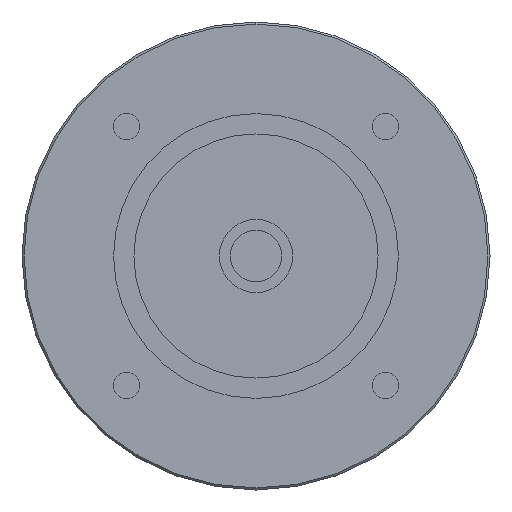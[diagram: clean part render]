
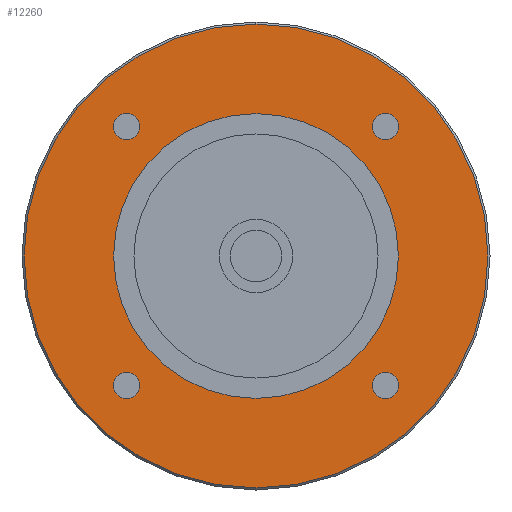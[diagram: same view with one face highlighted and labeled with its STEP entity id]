
A CAD part, left-side view. The second image highlights one B-rep face of the part: STEP entity #12260.
In plain terms, the highlighted planar face has unit normal (-1, 0, 0) as drawn and (0, 0, -1) by its records, which use the part's own axes.
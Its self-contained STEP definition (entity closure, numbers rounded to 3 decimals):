
#11090=CARTESIAN_POINT('',(0.,57.,-47.));
#11100=VERTEX_POINT('',#11090);
#11130=CARTESIAN_POINT('',(0.,0.,-47.
));
#11140=DIRECTION('',(0.,0.,-1.));
#11150=DIRECTION('',(1.,0.,0.));
#11160=AXIS2_PLACEMENT_3D('',#11130,#11140,#11150);
#11170=CIRCLE('',#11160,57.);
#11180=CARTESIAN_POINT('',(57.,0.,-47.));
#11190=VERTEX_POINT('',#11180);
#11200=EDGE_CURVE('',#11100,#11190,#11170,.T.);
#11220=CARTESIAN_POINT('',(0.,-57.,-47.));
#11230=VERTEX_POINT('',#11220);
#11240=EDGE_CURVE('',#11190,#11230,#11170,.T.);
#11400=CARTESIAN_POINT('',(0.,0.,-47.
));
#11410=DIRECTION('',(0.,0.,-1.));
#11420=DIRECTION('',(1.,0.,0.));
#11430=AXIS2_PLACEMENT_3D('',#11400,#11410,#11420);
#11440=PLANE('',#11430);
#11450=CARTESIAN_POINT('',(-31.82,-31.82,-47.));
#11460=DIRECTION('',(0.,0.,-1.));
#11470=DIRECTION('',(1.,0.,0.));
#11480=AXIS2_PLACEMENT_3D('',#11450,#11460,#11470);
#11490=CIRCLE('',#11480,3.25);
#11500=CARTESIAN_POINT('',(-28.57,-31.82,-47.));
#11510=VERTEX_POINT('',#11500);
#11520=CARTESIAN_POINT('',(-35.07,-31.82,-47.));
#11530=VERTEX_POINT('',#11520);
#11540=EDGE_CURVE('',#11510,#11530,#11490,.T.);
#11550=ORIENTED_EDGE('',*,*,#11540,.F.);
#11560=EDGE_CURVE('',#11530,#11510,#11490,.T.);
#11570=ORIENTED_EDGE('',*,*,#11560,.F.);
#11580=EDGE_LOOP('',(#11570,#11550));
#11590=FACE_BOUND('',#11580,.T.);
#11600=CARTESIAN_POINT('',(-31.82,31.82,-47.));
#11610=DIRECTION('',(0.,0.,-1.));
#11620=DIRECTION('',(1.,0.,0.));
#11630=AXIS2_PLACEMENT_3D('',#11600,#11610,#11620);
#11640=CIRCLE('',#11630,3.25);
#11650=CARTESIAN_POINT('',(-28.57,31.82,-47.));
#11660=VERTEX_POINT('',#11650);
#11670=CARTESIAN_POINT('',(-35.07,31.82,-47.));
#11680=VERTEX_POINT('',#11670);
#11690=EDGE_CURVE('',#11660,#11680,#11640,.T.);
#11700=ORIENTED_EDGE('',*,*,#11690,.F.);
#11710=EDGE_CURVE('',#11680,#11660,#11640,.T.);
#11720=ORIENTED_EDGE('',*,*,#11710,.F.);
#11730=EDGE_LOOP('',(#11720,#11700));
#11740=FACE_BOUND('',#11730,.T.);
#11750=CARTESIAN_POINT('',(31.82,31.82,-47.));
#11760=DIRECTION('',(0.,0.,-1.));
#11770=DIRECTION('',(1.,0.,0.));
#11780=AXIS2_PLACEMENT_3D('',#11750,#11760,#11770);
#11790=CIRCLE('',#11780,3.25);
#11800=CARTESIAN_POINT('',(35.07,31.82,-47.));
#11810=VERTEX_POINT('',#11800);
#11820=CARTESIAN_POINT('',(28.57,31.82,-47.));
#11830=VERTEX_POINT('',#11820);
#11840=EDGE_CURVE('',#11810,#11830,#11790,.T.);
#11850=ORIENTED_EDGE('',*,*,#11840,.F.);
#11860=EDGE_CURVE('',#11830,#11810,#11790,.T.);
#11870=ORIENTED_EDGE('',*,*,#11860,.F.);
#11880=EDGE_LOOP('',(#11870,#11850));
#11890=FACE_BOUND('',#11880,.T.);
#11900=CARTESIAN_POINT('',(31.82,-31.82,-47.));
#11910=DIRECTION('',(0.,0.,-1.));
#11920=DIRECTION('',(1.,0.,0.));
#11930=AXIS2_PLACEMENT_3D('',#11900,#11910,#11920);
#11940=CIRCLE('',#11930,3.25);
#11950=CARTESIAN_POINT('',(35.07,-31.82,-47.));
#11960=VERTEX_POINT('',#11950);
#11970=CARTESIAN_POINT('',(28.57,-31.82,-47.));
#11980=VERTEX_POINT('',#11970);
#11990=EDGE_CURVE('',#11960,#11980,#11940,.T.);
#12000=ORIENTED_EDGE('',*,*,#11990,.F.);
#12010=EDGE_CURVE('',#11980,#11960,#11940,.T.);
#12020=ORIENTED_EDGE('',*,*,#12010,.F.);
#12030=EDGE_LOOP('',(#12020,#12000));
#12040=FACE_BOUND('',#12030,.T.);
#12050=EDGE_CURVE('',#11230,#11100,#11170,.T.);
#12060=ORIENTED_EDGE('',*,*,#12050,.T.);
#12070=ORIENTED_EDGE('',*,*,#11240,.T.);
#12080=ORIENTED_EDGE('',*,*,#11200,.T.);
#12090=EDGE_LOOP('',(#12080,#12070,#12060));
#12100=FACE_OUTER_BOUND('',#12090,.T.);
#12110=CARTESIAN_POINT('',(0.,0.,
-47.));
#12120=DIRECTION('',(0.,0.,1.));
#12130=DIRECTION('',(1.,0.,0.));
#12140=AXIS2_PLACEMENT_3D('',#12110,#12120,#12130);
#12150=CIRCLE('',#12140,35.);
#12160=CARTESIAN_POINT('',(35.,0.,-47.));
#12170=VERTEX_POINT('',#12160);
#12180=CARTESIAN_POINT('',(-35.,0.,-47.));
#12190=VERTEX_POINT('',#12180);
#12200=EDGE_CURVE('',#12170,#12190,#12150,.T.);
#12210=ORIENTED_EDGE('',*,*,#12200,.T.);
#12220=EDGE_CURVE('',#12190,#12170,#12150,.T.);
#12230=ORIENTED_EDGE('',*,*,#12220,.T.);
#12240=EDGE_LOOP('',(#12230,#12210));
#12250=FACE_BOUND('',#12240,.T.);
#12260=ADVANCED_FACE('',(#11590,#11740,#11890,#12040,#12100,#12250),
#11440,.T.);
